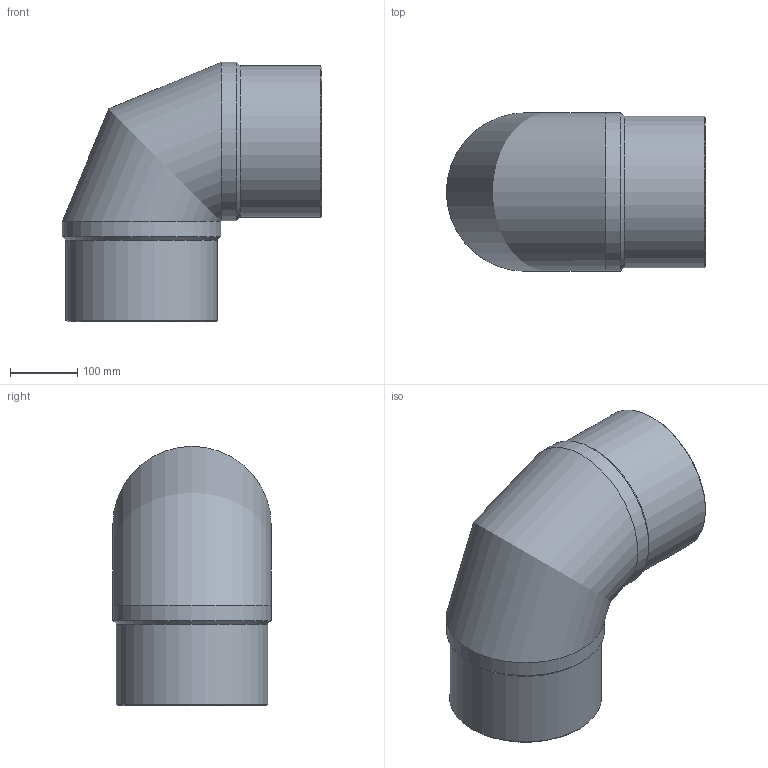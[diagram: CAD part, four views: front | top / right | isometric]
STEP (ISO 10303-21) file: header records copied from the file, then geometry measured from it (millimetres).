
FILE_DESCRIPTION(/* description */ ('Unknown'),/* implementation_level */ '2;1');
FILE_NAME(/* name */ 'G9P225B',/* time_stamp */ '2021-11-15T09:58:15+01:00',/* author */ ('Unknown'),/* organization */ ('Unknown'),/* preprocessor_version */ 'ST-DEVELOPER v16.7',/* originating_system */ 'Solid Edge',/* authorisation */ 'Unknown');
FILE_SCHEMA (('AUTOMOTIVE_DESIGN {1 0 10303 214 3 1 1}'));
Length unit declared in the file: millimetre
Products named in the file (1): G9P225B
Bounding box: 384.5 x 235 x 384.5 mm (x, y, z)
Volume: 5244191.7 mm3; surface area: 670539.6 mm2
Topology: 1 solids, 1 shells, 14 faces, 34 edges, 22 vertices
Faces by surface type: cylinder 6, cone 4, plane 2, torus 2
Full cylindrical faces by diameter (mm): 198.2 x2, 225 x2, 235 x2
Entity records: 384 total; most frequent: CARTESIAN_POINT 84, DIRECTION 60, ORIENTED_EDGE 38, AXIS2_PLACEMENT_3D 30, EDGE_LOOP 27, FACE_BOUND 27, EDGE_CURVE 19, VERTEX_POINT 18
